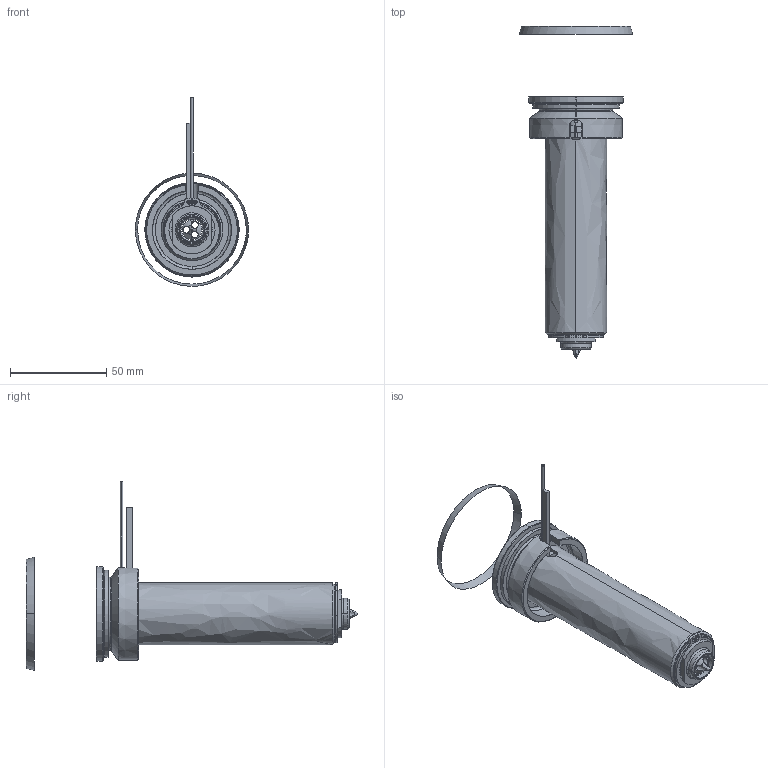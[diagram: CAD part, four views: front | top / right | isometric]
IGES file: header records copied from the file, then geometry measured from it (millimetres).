
Start section: SolidWorks IGES file using analytic representation for surfaces
Global section: file name: C:\Documents and Settings\ws-20\Desktop\TEM\UGEP5003-S-A-0 [Øf-0.80 ØC-12].IGS; native system: SolidWorks 2012; preprocessor: SolidWorks 2012; author: ws-20; date: 120426.095800; units: millimetre
Bounding box: 58.79 x 172.24 x 98.01 mm (x, y, z)
Surface area: 51783.3 mm2 (no closed solid volume)
Topology: 0 solids, 0 shells, 125 faces, 2380 edges, 2380 vertices
Faces by surface type: revolution 81, bspline 44
